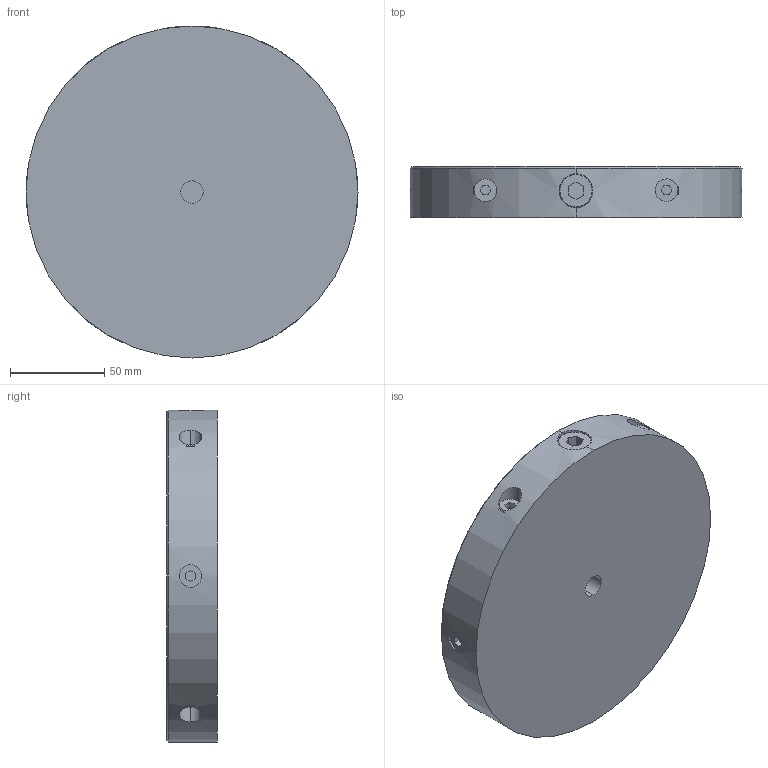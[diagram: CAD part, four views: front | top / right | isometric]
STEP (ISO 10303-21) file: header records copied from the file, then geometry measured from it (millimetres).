
FILE_DESCRIPTION (( 'STEP AP203' ), '1' );
FILE_NAME ('45801.STEP', '2018-10-29T09:59:53', ( '' ), ( '' ), 'SwSTEP 2.0', 'SolidWorks 2015', '' );
FILE_SCHEMA (( 'CONFIG_CONTROL_DESIGN' ));
Length unit declared in the file: millimetre
Products named in the file (1): 45801
Bounding box: 176 x 27 x 176 mm (x, y, z)
Volume: 578769.5 mm3; surface area: 89752.8 mm2
Topology: 8 solids, 8 shells, 173 faces, 417 edges, 259 vertices
Faces by surface type: plane 73, cylinder 62, cone 30, torus 8
Entity records: 6369 total; most frequent: CARTESIAN_POINT 2321, ORIENTED_EDGE 834, DIRECTION 799, EDGE_CURVE 417, AXIS2_PLACEMENT_3D 286, VERTEX_POINT 259, VECTOR 227, LINE 227
